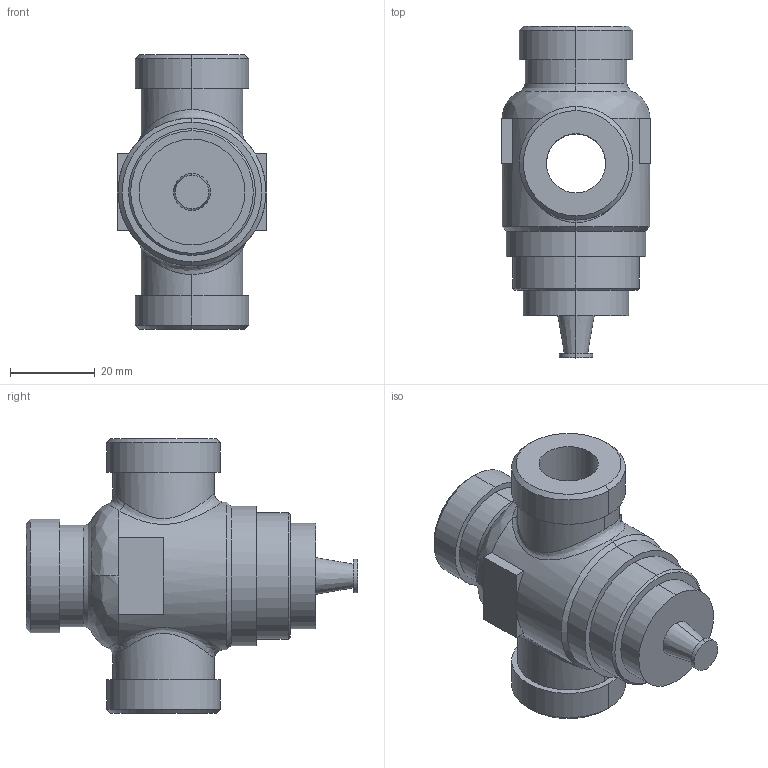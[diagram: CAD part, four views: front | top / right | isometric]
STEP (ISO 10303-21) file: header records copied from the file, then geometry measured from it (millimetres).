
FILE_DESCRIPTION((''),'2;1');
FILE_NAME('000421.dwg.stp','2006-10-04T11:29:49',(''),(''),'Mechanical Desktop 2006','Mechanical Desktop 2006',', , ');
FILE_SCHEMA(('AUTOMOTIVE_DESIGN { 1 2 10303 214 0 1 1 1 }'));
Length unit declared in the file: millimetre
Products named in the file (1): Product
Bounding box: 35.28 x 78.5 x 65 mm (x, y, z)
Volume: 55717.2 mm3; surface area: 17784.7 mm2
Topology: 5 solids, 5 shells, 72 faces, 157 edges, 97 vertices
Faces by surface type: cylinder 23, plane 22, bspline 15, cone 12
Entity records: 2906 total; most frequent: CARTESIAN_POINT 1278, DIRECTION 342, ORIENTED_EDGE 314, EDGE_CURVE 157, AXIS2_PLACEMENT_3D 141, VERTEX_POINT 97, CIRCLE 79, EDGE_LOOP 78
